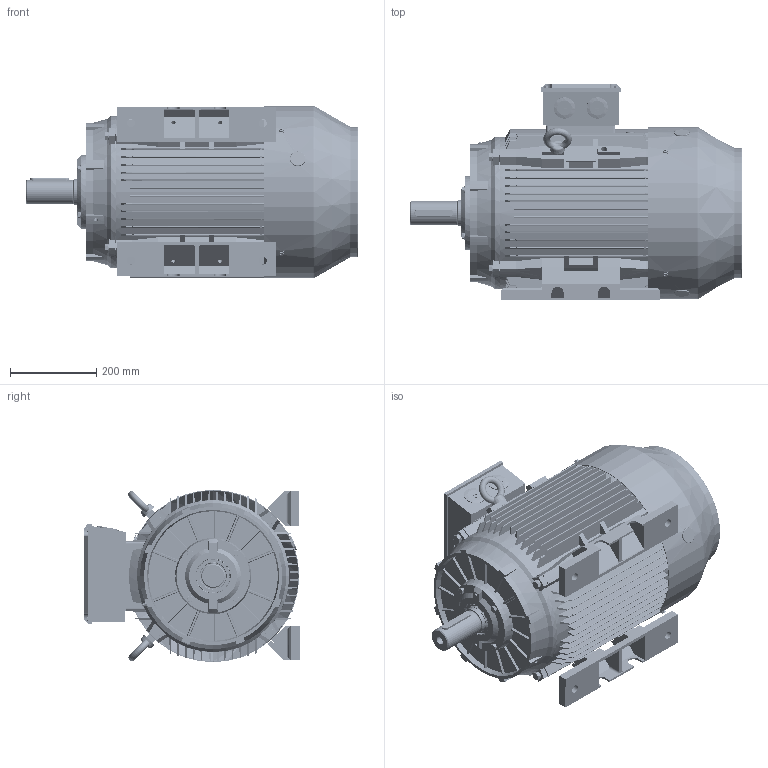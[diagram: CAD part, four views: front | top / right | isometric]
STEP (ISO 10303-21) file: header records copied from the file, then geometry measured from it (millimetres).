
FILE_DESCRIPTION (( 'STEP AP214' ), '1' );
FILE_NAME ('BCT4185.20I603.11.step', '2020-04-23T15:07:46', ( '' ), ( '' ), 'SwSTEP 2.0', 'SolidWorks 2019', '' );
FILE_SCHEMA (( 'AUTOMOTIVE_DESIGN' ));
Length unit declared in the file: millimetre
Products named in the file (1): BCT4185.20I603.11
Bounding box: 768.5 x 498.27 x 399 mm (x, y, z)
Volume: 15245156.5 mm3; surface area: 4216569.3 mm2
Topology: 57 solids, 57 shells, 8352 faces, 24216 edges, 15803 vertices
Faces by surface type: plane 3986, cylinder 3335, cone 357, torus 270, sphere 264, bspline 140
Entity records: 309516 total; most frequent: CARTESIAN_POINT 85047, ORIENTED_EDGE 47928, DIRECTION 46104, EDGE_CURVE 23964, AXIS2_PLACEMENT_3D 16119, VERTEX_POINT 15731, VECTOR 13866, LINE 13866
